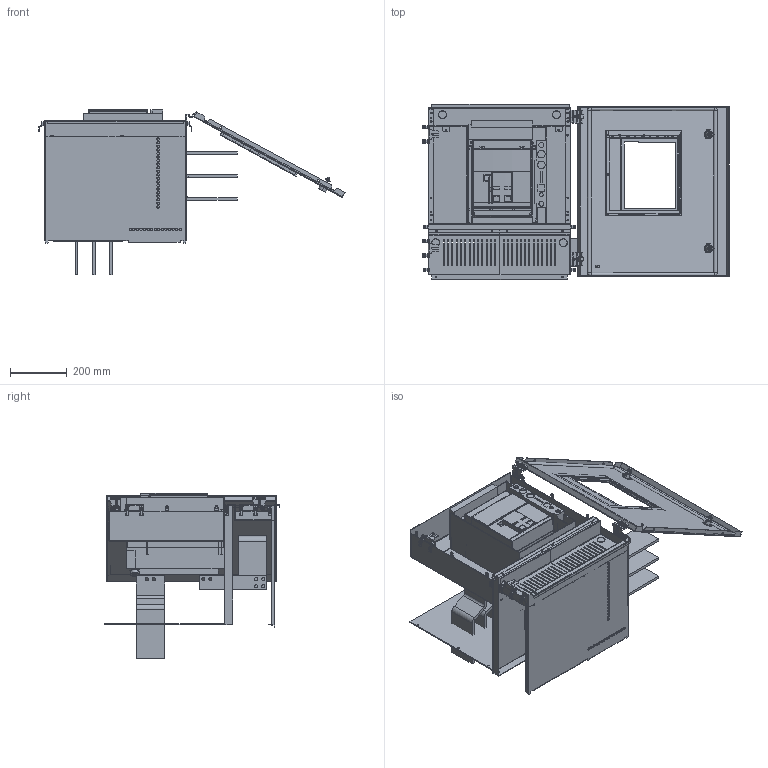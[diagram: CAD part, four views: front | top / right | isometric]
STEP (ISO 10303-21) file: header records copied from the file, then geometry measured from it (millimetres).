
FILE_DESCRIPTION(('CAx-IF Rec.Pracs.---Model Styling and Organization---1.2---2011-12-15','CAx-IF Rec.Pracs.---Geometric and Assembly Validation Properties---4.1---2014-06-16','CAx-IF Rec.Pracs.---PMI Polyline Presentation---2.0---2013-05-24'),'2;1');
FILE_NAME('R5M212IB2H61519S (one-side).stp','2021-05-05T12:46:02+03:00',(''),(''),'STEP Interface 4.4 by CT CoreTechnologie','3D_Evolution4.4 by CT CoreTechnologie','');
FILE_SCHEMA(('AUTOMOTIVE_DESIGN { 1 0 10303 214 1 1 1 1 }'));
Length unit declared in the file: millimetre
Products named in the file (52): R5M212IB2H61519S(îäíîñòîðîííèé); RB.1434.00.00.0 ÑÁ_-00 (Emax E1.2 F); Ì6õ12-A5100231_straight; AC00C266; RB.1434.00.01.0_-00 (SACE Emax E1.2 W); PF 7x14 MCC2.0_0600x0600; AC00C061_AC00C061; ABBO1_-00; AC00C485; RB.0116.00.00.1_-00; M6 x 16-DIN 7991 ISR_thread; RB.0687.00.00.1_-00; E1.2 III W Frame; RB3563001_1PA_001_06_MOSTRINA_W_E1_2; RB3563001_1PA_001_06_MOSTRINA_W_E1_2_1; ABBO2_-00; RB.1233.00.00.0_-00; RB.1590.00.00.0_-00; RB.1226.00.00.0_-00; RB.1227.00.00.0_-00; ABBT2W_-00; ABBT1W_-00; MS737-1-1(1); MS737-1-1 Z_ ªàëâ; MS737-1-1 stop_fixed; E1.2 III W; E1.2 III W TERMINALS VR(1); 1SDH001252R0041_1PA_001_00_E1.2_III_W_TERMINALS_VR_UPPER_5; E1.2 III W TERMINALS VR(2); 1SDH001252R0024_1PA_001_00_E1.2_III_W_6; 1SDH001252R0024_1PA_001_00_E1.2_III_W_9; 1SDH001252R0024_1PA_001_00_E1.2_III_W_12; 1SDH001252R0024_1PA_001_00_E1.2_III_W_16; 1SDH001252R0024_1PA_001_00_E1.2_III_W_1; 1SDH001252R0024_1PA_001_00_E1.2_III_W_8; 1SDH001252R0024_1PA_001_00_E1.2_III_W_10; 1SDH001252R0024_1PA_001_00_E1.2_III_W_5; 1SDH001252R0024_1PA_001_00_E1.2_III_W_11; 1SDH001252R0024_1PA_001_00_E1.2_III_W; 1SDH001252R0024_1PA_001_00_E1.2_III_W_3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
Assembly tree (86 placements, depth 4):
  R5M212IB2H61519S(îäíîñòîðîííèé)
    RB.1434.00.00.0 ÑÁ_-00 (Emax E1.2 F)
      Ì6õ12-A5100231_straight
      AC00C266  x2
      RB.1434.00.01.0_-00 (SACE Emax E1.2 W)
      PF 7x14 MCC2.0_0600x0600
      AC00C061_AC00C061
    ABBO1_-00  x3
    AC00C485  x12
    RB.0116.00.00.1_-00  x2
    M6 x 16-DIN 7991 ISR_thread  x12
    RB.0687.00.00.1_-00  x2
    E1.2 III W Frame
      RB3563001_1PA_001_06_MOSTRINA_W_E1_2
      RB3563001_1PA_001_06_MOSTRINA_W_E1_2_1
    ABBO2_-00  x3
    RB.1233.00.00.0_-00
    RB.1590.00.00.0_-00
    RB.1226.00.00.0_-00
    RB.1227.00.00.0_-00
    ABBT2W_-00
    ABBT1W_-00
    MS737-1-1(1)
      MS737-1-1 Z_ ªàëâ
      MS737-1-1 stop_fixed
    E1.2 III W
      E1.2 III W TERMINALS VR(1)
        1SDH001252R0041_1PA_001_00_E1.2_III_W_TERMINALS_VR_UPPER_5  x3
      E1.2 III W TERMINALS VR(2)
        1SDH001252R0041_1PA_001_00_E1.2_III_W_TERMINALS_VR_UPPER_5
      1SDH001252R0024_1PA_001_00_E1.2_III_W_6
      1SDH001252R0024_1PA_001_00_E1.2_III_W_9
      1SDH001252R0024_1PA_001_00_E1.2_III_W_12
      1SDH001252R0024_1PA_001_00_E1.2_III_W_16
      1SDH001252R0024_1PA_001_00_E1.2_III_W_1
      1SDH001252R0024_1PA_001_00_E1.2_III_W_8
      1SDH001252R0024_1PA_001_00_E1.2_III_W_10
      1SDH001252R0024_1PA_001_00_E1.2_III_W_5
      1SDH001252R0024_1PA_001_00_E1.2_III_W_11
      1SDH001252R0024_1PA_001_00_E1.2_III_W
      1SDH001252R0024_1PA_001_00_E1.2_III_W_3
      1SDH001252R0024_1PA_001_00_E1.2_III_W_7
      1SDH001252R0024_1PA_001_00_E1.2_III_W_13
    MS737-1-1(2)
      MS737-1-1 Z_ ªàëâ
      MS737-1-1 stop_fixed
    RB.1431.00.00.0_-00  x2
    ABBDS1W_-00
    RB.1432.00.00.0_-00
    ABBDS2W_-00
    RB.1433.00.00.0_-00
    ABBDS3W_-00
    RB.1227.00.00.0_-01
    RB.1433.00.00.0_-01
    ABBT3W_-00
Bounding box: 1074.99 x 617 x 582.27 mm (x, y, z)
Surface area: 5495195.7 mm2 (no closed solid volume)
Topology: 0 solids, 107 shells, 4650 faces, 12402 edges, 7916 vertices
Faces by surface type: plane 2787, cylinder 1448, bspline 415
Entity records: 104320 total; most frequent: CARTESIAN_POINT 22226, ORIENTED_EDGE 16716, DIRECTION 15919, EDGE_CURVE 8410, VECTOR 6623, LINE 6623, VERTEX_POINT 5475, AXIS2_PLACEMENT_3D 4648
